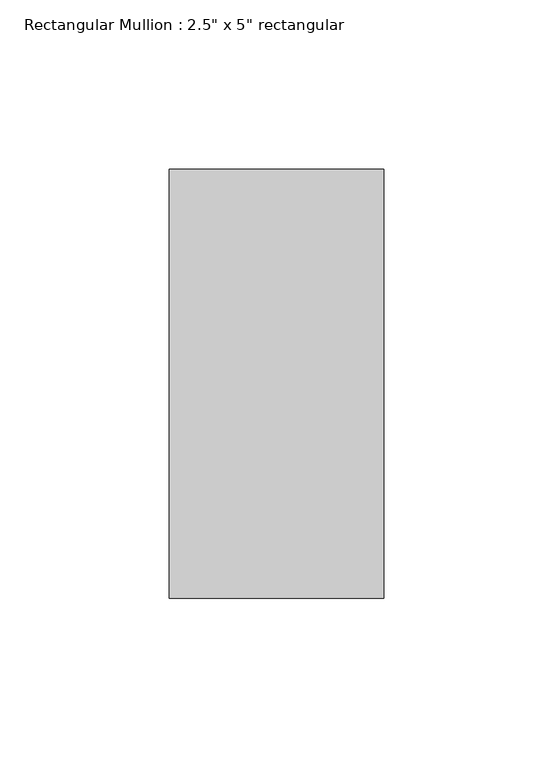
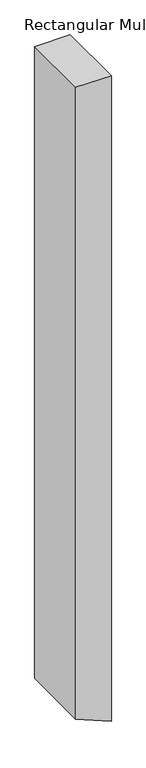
"""IFC4 building model written with IfcOpenShell, lengths in millimetres: member geometry."""

from ifc_helpers import new_model, si_unit, frame, origin, place, context, project, spatial, polyline, outline, extrude, source, transform, mapped, element, save


def member_ab065cd0(model_context):
    return source(origin(), model_context, "Body", "SweptSolid", [
        extrude(outline(polyline([(0.0, 0.0), (0.0, -63.5), (-1192.8974388, -63.5), (-1219.2, 0.0), (0.0, 0.0)])), frame((0.0, -63.5, 0.0), z_axis=(0.0, 1.0, 0.0), x_axis=(0.0, 0.0, 1.0)), (0.0, 0.0, 1.0), 127.0),
    ])


if __name__ == "__main__":
    model = new_model("IFC4")
    model_context = context("Model", 3, world=origin())
    ifc_project = project(units=[si_unit("LENGTHUNIT", "METRE", prefix="MILLI")], contexts=[model_context])
    site = spatial("IfcSite", under=ifc_project)
    building = spatial("IfcBuilding", under=site)
    placement = place(None, origin())
    member_shape = member_ab065cd0(model_context)
    element("IfcMember", 1, ObjectType="Rectangular Mullion : 2.5\" x 5\" rectangular", at=placement, inside=building, context=model_context, shape_type="MappedRepresentation", body=[
        mapped(member_shape, transform((0.0, 0.0, 0.0), x_axis=(1.0, 0.0, 0.0), y_axis=(0.0, 1.0, 0.0), z_axis=(0.0, 0.0, 1.0))),
    ])
    save(model, "model.ifc")
